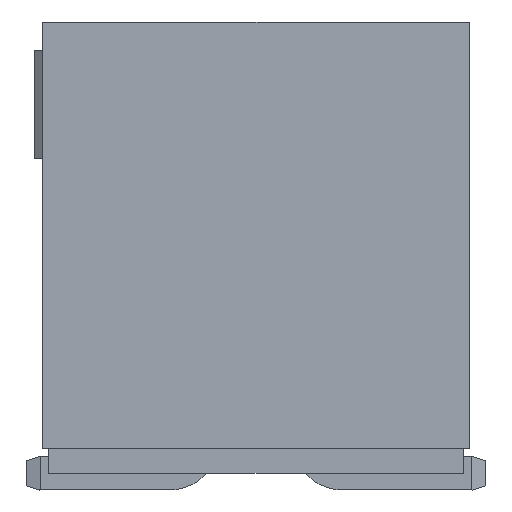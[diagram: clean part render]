
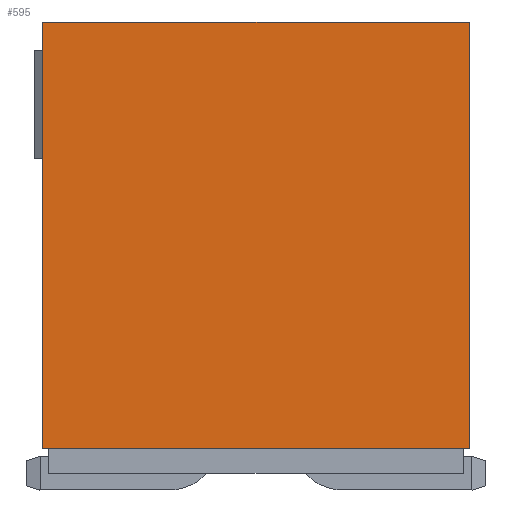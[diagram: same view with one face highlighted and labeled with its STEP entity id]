
A CAD part, left-side view. The second image highlights one B-rep face of the part: STEP entity #595.
In plain terms, the highlighted planar face has unit normal (-1, 0, 0).
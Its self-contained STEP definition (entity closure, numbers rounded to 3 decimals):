
#87 = AXIS2_PLACEMENT_3D ( 'NONE', #1588, #1594, #1595 ) ;
#159 = VECTOR ( 'NONE', #1307, 1000. ) ;
#165 = VECTOR ( 'NONE', #1337, 1000. ) ;
#168 = VECTOR ( 'NONE', #1335, 1000. ) ;
#170 = VECTOR ( 'NONE', #1340, 1000. ) ;
#260 = VERTEX_POINT ( 'NONE', #741 ) ;
#261 = VERTEX_POINT ( 'NONE', #742 ) ;
#263 = VERTEX_POINT ( 'NONE', #1043 ) ;
#409 = CARTESIAN_POINT ( 'NONE',  ( -6.325, -2.55, -2.4 ) ) ;
#595 = ADVANCED_FACE ( 'NONE', ( #1592 ), #1586, .F. ) ;
#670 = EDGE_CURVE ( 'NONE', #263, #1355, #1305, .T. ) ;
#679 = EDGE_CURVE ( 'NONE', #260, #1355, #1332, .T. ) ;
#680 = EDGE_CURVE ( 'NONE', #261, #263, #1313, .T. ) ;
#681 = EDGE_CURVE ( 'NONE', #261, #260, #1338, .T. ) ;
#741 = CARTESIAN_POINT ( 'NONE',  ( -6.325, 2.55, -2.4 ) ) ;
#742 = CARTESIAN_POINT ( 'NONE',  ( -6.325, 2.55, 2.7 ) ) ;
#943 = ORIENTED_EDGE ( 'NONE', *, *, #679, .T. ) ;
#944 = ORIENTED_EDGE ( 'NONE', *, *, #670, .F. ) ;
#945 = ORIENTED_EDGE ( 'NONE', *, *, #680, .F. ) ;
#946 = ORIENTED_EDGE ( 'NONE', *, *, #681, .T. ) ;
#1031 = EDGE_LOOP ( 'NONE', ( #943, #944, #945, #946 ) ) ;
#1043 = CARTESIAN_POINT ( 'NONE',  ( -6.325, -2.55, 2.7 ) ) ;
#1305 = LINE ( 'NONE', #1306, #159 ) ;
#1306 = CARTESIAN_POINT ( 'NONE',  ( -6.325, -2.55, 0.15 ) ) ;
#1307 = DIRECTION ( 'NONE',  ( 0., 0., -1. ) ) ;
#1313 = LINE ( 'NONE', #1336, #165 ) ;
#1332 = LINE ( 'NONE', #1334, #168 ) ;
#1334 = CARTESIAN_POINT ( 'NONE',  ( -6.325, 0., -2.4 ) ) ;
#1335 = DIRECTION ( 'NONE',  ( 0., -1., 0. ) ) ;
#1336 = CARTESIAN_POINT ( 'NONE',  ( -6.325, 0., 2.7 ) ) ;
#1337 = DIRECTION ( 'NONE',  ( 0., -1., 0. ) ) ;
#1338 = LINE ( 'NONE', #1339, #170 ) ;
#1339 = CARTESIAN_POINT ( 'NONE',  ( -6.325, 2.55, 0.15 ) ) ;
#1340 = DIRECTION ( 'NONE',  ( 0., 0., -1. ) ) ;
#1355 = VERTEX_POINT ( 'NONE', #409 ) ;
#1586 = PLANE ( 'NONE',  #87 ) ;
#1588 = CARTESIAN_POINT ( 'NONE',  ( -6.325, -2.55, -2.4 ) ) ;
#1592 = FACE_OUTER_BOUND ( 'NONE', #1031, .T. ) ;
#1594 = DIRECTION ( 'NONE',  ( 1., 0., 0. ) ) ;
#1595 = DIRECTION ( 'NONE',  ( 0., 1., 0. ) ) ;
